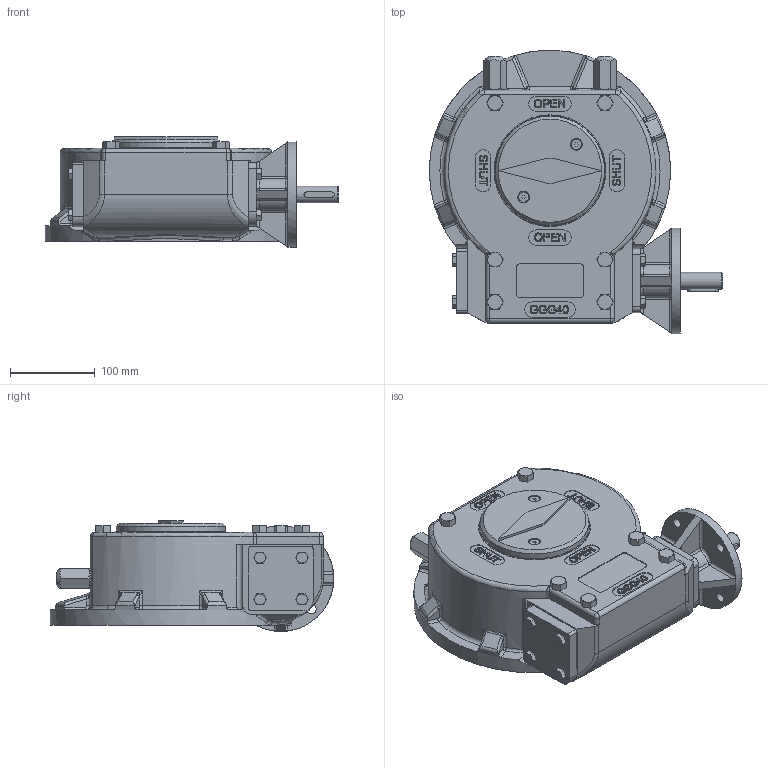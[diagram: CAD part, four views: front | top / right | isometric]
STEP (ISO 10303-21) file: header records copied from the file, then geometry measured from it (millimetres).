
FILE_DESCRIPTION( ( 'Unknown' ), '1' );
FILE_NAME( 'M:/Current Drawings/Internet datasheets/4 - STEP/E1950G LH.stp', 'Unknown', ( 'Unknown' ), ( 'Unknown' ), 'PSStep 15.0.49', 'Unknown', ' ' );
FILE_SCHEMA( ( 'AUTOMOTIVE_DESIGN { 1 0 10303 214 1 1 1 1 }' ) );
Length unit declared in the file: millimetre
Products named in the file (1): 12EZ10N010M00
Bounding box: 346.5 x 335 x 130.84 mm (x, y, z)
Volume: 4544201.7 mm3; surface area: 632466.9 mm2
Topology: 1 solids, 38 shells, 1779 faces, 4489 edges, 2707 vertices
Faces by surface type: plane 598, cylinder 457, torus 230, cone 217, bspline 167, sphere 72, extrusion 38
Full cylindrical faces by diameter (mm): 3.1 x2, 4.917 x2, 6 x2, 6.647 x4, 7 x2, 8 x8, 8.376 x6, 9 x8, 10 x6, 11 x10, 13.835 x18, 17.294 x8, 20 x1, 22 x2, 25 x3, 26 x1, 30 x1, 32 x2, 35 x2, 70 x1, 95.75 x2, 99 x2, 100 x5, 110 x2, 125 x1, 129 x1
Entity records: 97160 total; most frequent: CARTESIAN_POINT 44689, ORIENTED_EDGE 8156, DIRECTION 7327, EDGE_CURVE 4078, AXIS2_PLACEMENT_3D 3042, VERTEX_POINT 2626, EDGE_LOOP 2057, FACE_OUTER_BOUND 1897
